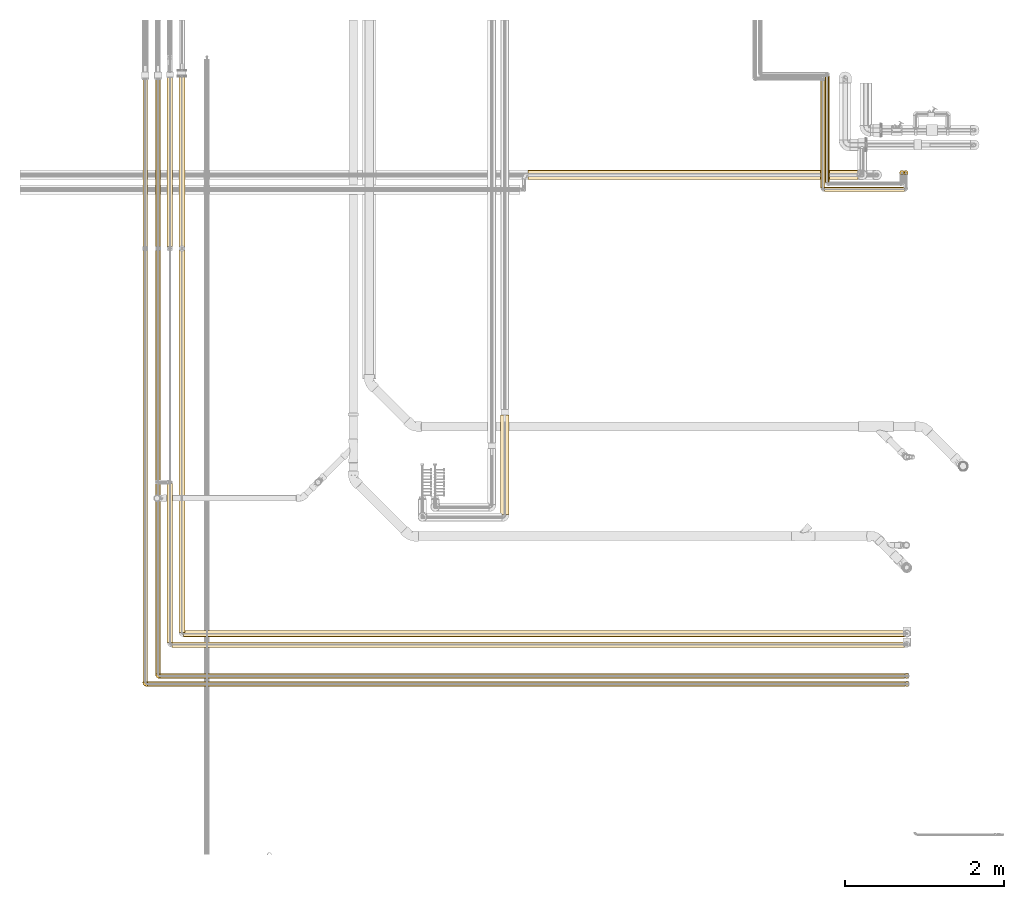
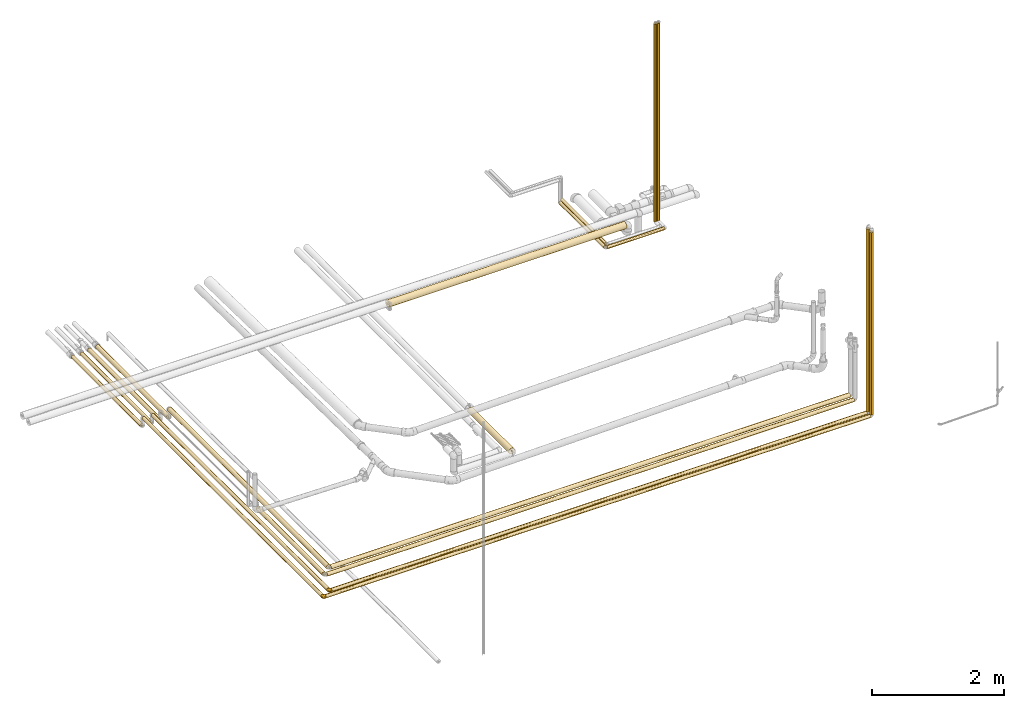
# One storey, part 1 of 83: 23 coverings.
"""IFC2X3 building model written with IfcOpenShell, lengths in millimetres."""

from ifc_helpers import new_model, entity, si_unit, converted_unit, derived_unit, direction, frame, origin_with_axes, origin_2d_with_axis, place, context, subcontext, project, spatial, hollow_circle, extrude, open_shell, surface_model, source, transform, mapped, element, save


model = new_model("IFC2X3")

# Units and contexts
model_context = context("Model", 3, precision=0.01, world=frame((0.0, 4.29681676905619e-09, 0.0)), true_north=direction((4.01073788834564e-13, 1.0)))
plan_context = context("Plan", 3, precision=0.01, world=frame((0.0, 4.29681676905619e-09, 0.0)), true_north=direction((4.01073788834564e-13, 1.0)))
body_context = subcontext(model_context, "Body", "Model", "MODEL_VIEW")
ifc_project = project(units=[converted_unit("PLANEANGLEUNIT", "DEGREE", entity("IfcPositiveLengthMeasure", 0.0174532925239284), si_unit("PLANEANGLEUNIT", "RADIAN"), dimensions=[0, 0, 0, 0, 0, 0, 0]), si_unit("AREAUNIT", "SQUARE_METRE"), si_unit("LENGTHUNIT", "METRE", prefix="MILLI"), si_unit("MASSUNIT", "GRAM", prefix="KILO"), si_unit("POWERUNIT", "WATT"), si_unit("PRESSUREUNIT", "PASCAL"), si_unit("FORCEUNIT", "NEWTON", prefix="KILO"), si_unit("ELECTRICVOLTAGEUNIT", "VOLT"), si_unit("ELECTRICCURRENTUNIT", "AMPERE"), si_unit("THERMODYNAMICTEMPERATUREUNIT", "DEGREE_CELSIUS"), si_unit("TIMEUNIT", "SECOND"), si_unit("VOLUMEUNIT", "CUBIC_METRE"), derived_unit("LINEARVELOCITYUNIT", [(si_unit("LENGTHUNIT", "METRE"), 1), (si_unit("TIMEUNIT", "SECOND"), -1)]), derived_unit("VOLUMETRICFLOWRATEUNIT", [(si_unit("VOLUMEUNIT", "CUBIC_METRE"), 1), (si_unit("TIMEUNIT", "SECOND"), -1)]), derived_unit("THERMALTRANSMITTANCEUNIT", [(si_unit("POWERUNIT", "WATT"), 1), (si_unit("THERMODYNAMICTEMPERATUREUNIT", "KELVIN"), -1), (si_unit("AREAUNIT", "SQUARE_METRE"), -1)]), derived_unit("SOUNDPRESSUREUNIT", [(si_unit("PRESSUREUNIT", "PASCAL"), 1)])], contexts=[model_context, plan_context])

# Site, building, storey
site_placement = place(None, frame((0.0, -4.29681676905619e-09, 0.0), z_axis=(0.0, 0.0, 1.0), x_axis=(1.0, 0.0, 0.0)))
site = spatial("IfcSite", under=ifc_project, at=site_placement, Name="ENGM", CompositionType="ELEMENT")
building_placement = place(site_placement, frame((0.0, 4.29681676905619e-09, 0.0), z_axis=(0.0, 0.0, 1.0), x_axis=(1.0, 0.0, 0.0)))
building = spatial("IfcBuilding", under=site, at=building_placement, Name="TI", CompositionType="ELEMENT")
storey_placement = place(building_placement, frame((0.0, 0.0, 204000.0), z_axis=(0.0, 0.0, 1.0), x_axis=(1.0, 0.0, 0.0)))
storey = spatial("IfcBuildingStorey", under=building, at=storey_placement, Name="Nivå D", CompositionType="ELEMENT", Elevation=204000.0)

# Coverings
shared_shape_1 = source(origin_with_axes(), body_context, "Body", "SweptSolid", [
    extrude(hollow_circle(Radius=52.5, WallThickness=40.0, at=origin_2d_with_axis()), frame((0.0, 0.0, 0.0), z_axis=(1.0, 0.0, 0.0), x_axis=(0.0, 1.0, 0.0)), (0.0, 0.0, 1.0), 1249.8),
])
covering_1_placement = place(storey_placement, frame((604084.1909, 693269.40884, 6040.49622), z_axis=(0.0, 0.0, 1.0), x_axis=(0.0, 1.0, 0.0)))
element("IfcCovering", 1, at=covering_1_placement, inside=storey, Name="BI11T - Rørskål m/Al.folie - varme 60-25", PredefinedType="INSULATION", context=body_context, shape_type="MappedRepresentation", body=[
    mapped(shared_shape_1, transform((0.0, 0.0, 0.0), scale=1.0)),
])
shared_shape_2 = source(origin_with_axes(), body_context, "Body", "SweptSolid", [
    extrude(hollow_circle(Radius=60.0, WallThickness=40.0, at=origin_2d_with_axis()), frame((0.0, 0.0, 0.0), z_axis=(1.0, 0.0, 0.0), x_axis=(0.0, 1.0, 0.0)), (0.0, 0.0, 1.0), 4145.8),
])
covering_2_placement = place(storey_placement, frame((608520.37351, 697531.0, 6072.06187000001), z_axis=(0.0, 0.0, 1.0), x_axis=(-1.0, 0.0, 0.0)))
element("IfcCovering", 2, at=covering_2_placement, inside=storey, Name="BI11T - Rørskål m/Al.folie - varme 60-25", PredefinedType="INSULATION", context=body_context, shape_type="MappedRepresentation", body=[
    mapped(shared_shape_2, transform((0.0, 0.0, 0.0), scale=1.0)),
])
shared_shape_3 = source(origin_with_axes(), body_context, "Body", "SweptSolid", [
    extrude(hollow_circle(Radius=31.0, WallThickness=21.0, at=origin_2d_with_axis()), frame((0.0, 0.0, 0.0), z_axis=(1.0, 0.0, 0.0), x_axis=(0.0, 1.0, 0.0)), (0.0, 0.0, 1.0), 9506.4),
])
covering_3_placement = place(storey_placement, frame((599598.7743, 691141.97914, 6220.0), z_axis=(0.0, 0.0, 1.0), x_axis=(1.0, 0.0, 0.0)))
element("IfcCovering", 3, at=covering_3_placement, inside=storey, Name="BI10T - Cellegummi 18-32 mm kalde rør", PredefinedType="INSULATION", context=body_context, shape_type="MappedRepresentation", body=[
    mapped(shared_shape_3, transform((0.0, 0.0, 0.0), scale=1.0)),
])
shared_shape_4 = source(origin_with_axes(), body_context, "Body", "SurfaceModel", [
    surface_model("IfcShellBasedSurfaceModel", [(7.65854, 26.8, 33.53665), (14.93103, 26.8, 30.99072), (21.4533, 26.8, 26.89082), (-26.583, 26.8, -21.83356), (-7.52438, 26.8, 33.567), (30.99573, 26.8, 14.92062), (26.899, 26.8, 21.44304), (0.0, 26.8, 34.4), (-14.69425, 26.8, 31.10368), (-26.583, 26.8, 21.83356), (-21.15177, 26.8, 27.12863), (33.53852, 26.8, 7.65035), (34.4, 26.8, 0.0), (26.89082, 26.8, -21.4533), (33.53665, 26.8, -7.65854), (30.99072, 26.8, -14.93103), (21.44304, 26.8, -26.899), (14.92062, 26.8, -30.99573), (-14.70935, 26.8, -31.09655), (-21.16359, 26.8, -27.11941), (-7.53901, 26.8, -33.56372), (0.0, 26.8, -34.4), (7.65035, 26.8, -33.53852), (-26.8, 26.583, -21.83356), (-26.8, 21.15599, -27.12534), (-26.8, 14.7018, -31.10012), (-26.8, -8.90338, 33.22785), (-26.8, 26.583, 21.83356), (-26.8, 7.53379, -33.56489), (-26.8, 21.15599, 27.12534), (-26.8, 14.7018, 31.10012), (-26.8, 7.53379, 33.56489), (-26.8, 0.0, 34.4), (-26.8, -29.79127, 17.2), (-26.8, 0.0, -34.4), (-26.8, -8.90338, -33.22785), (-26.8, -17.2, -29.79127), (-26.8, -24.32447, -24.32447), (-26.8, -29.79127, -17.2), (-26.8, -34.4, 0.0), (-26.8, -33.22785, -8.90338), (-26.8, -17.2, 29.79127), (-26.8, -24.32447, 24.32447), (-26.8, -33.22785, 8.90338), (-26.64656, 26.64656, 21.83356), (-26.64656, 26.64656, -21.83356), (-3.59052, 13.4, -34.4), (-14.33755, 14.33755, -33.15375), (-20.98278, 20.24865, -29.29104), (-13.4, 3.59052, -34.4), (23.43181, -5.85668, -9.31772), (30.59211, 12.00691, -11.36629), (29.74143, 3.37977, 0.0), (-17.35379, -5.60847, -33.68915), (-10.72157, -3.05952, -33.65653), (-2.19496, -13.46149, -27.70964), (-5.90325, -23.09189, -20.94139), (-14.44362, -19.31464, -27.29136), (-11.50632, -10.12221, -31.78146), (-19.86027, -12.55716, -31.78146), (14.5039, 8.69712, -29.13049), (17.47419, 18.2255, -29.13049), (22.70218, 14.0418, -24.32911), (-8.49526, 8.49526, -34.4), (-1.73573, 4.43438, -33.72277), (-1.40625, 21.55179, -34.4), (21.13117, -4.93531, -15.5496), (-8.95552, -31.11498, -6.38768), (-11.56328, -29.76527, -13.16431), (31.96725, 14.56973, 0.0), (-17.29059, -26.4489, -20.94139), (13.00945, -12.79913, -17.94172), (17.64372, -3.70839, -21.17899), (4.67119, 7.67803, -32.90681), (10.14945, 17.27713, -32.47124), (28.1038, 16.16713, -18.30729), (5.75988, -4.42453, -29.1208), (-1.4374, -2.65193, -32.21392), (20.41295, 4.88172, -23.35949), (24.42026, 4.35073, -18.30729), (16.40522, -14.15163, -10.5905), (-1.3824, -25.73418, -13.68663), (1.8264, -26.29935, -7.71275), (8.10398, -20.63529, -12.38525), (11.69208, -20.10273, -5.98463), (16.47493, -16.47493, 0.0), (23.10818, -6.54758, 0.0), (-14.56973, -31.96725, 0.0), (4.03594, -17.21397, -21.39036), (9.62885, -9.0633, -24.32911), (-21.55179, 1.40625, -34.4), (13.92099, -0.05311, -26.46374), (9.4576, 2.58417, -30.01827), (-3.37977, -29.74143, 0.0), (6.54758, -23.10818, 0.0), (-16.40302, -11.7882, 31.78146), (-8.96499, -31.08424, 6.55564), (10.63139, -19.08757, 11.50781), (23.44486, -5.83859, 9.31385), (22.71205, 14.04293, 24.31983), (28.11122, 16.17091, 18.29685), (-8.34799, -17.2314, 27.29136), (-13.16926, -25.54575, 20.94139), (1.60724, -19.88713, 20.19204), (14.51664, 8.70018, 29.12392), (17.4853, 18.22796, 29.12392), (10.15899, 17.27639, 32.46794), (17.02293, -8.95279, 17.25897), (-13.98179, -4.14591, 33.74209), (-13.4, 3.59052, 34.4), (-20.1, 1.79526, 34.4), (-1.40625, 21.55179, 34.4), (-16.33213, -31.39885, 11.74535), (-18.40196, -20.19695, 27.29136), (2.37805, -25.95313, 7.88237), (-5.56785, -27.79838, 13.16431), (30.59671, 12.01158, 11.35688), (1.61546, -9.41417, 28.52205), (-9.49504, -8.67307, 31.98214), (24.43036, 4.35742, 18.29685), (-8.61019, -0.7535, 33.83371), (-2.54483, 2.9265, 33.63096), (-3.59052, 13.4, 34.4), (-8.49526, 8.49526, 34.4), (18.33244, 2.77456, 24.3201), (4.67405, 7.66653, 32.90424), (-20.5196, -5.89205, 33.78227), (9.64914, -9.05591, 24.31984), (7.49925, -1.10027, 29.66678), (2.2383, -14.80321, 24.70771), (-3.35568, -4.38407, 32.15869), (-14.33836, 14.33836, 33.15344), (-20.24021, 20.9835, 29.29463)], [open_shell([[[0, 1, 2]], [[2, 3, 4]], [[5, 2, 6]], [[5, 3, 2]], [[0, 2, 7]], [[2, 4, 7]], [[8, 9, 10]], [[9, 8, 4]], [[4, 3, 9]], [[5, 11, 12]], [[13, 12, 14]], [[13, 14, 15]], [[3, 13, 16]], [[13, 3, 12]], [[3, 16, 17]], [[3, 18, 19]], [[18, 3, 20]], [[21, 20, 3]], [[21, 3, 22]], [[3, 17, 22]], [[12, 3, 5]], [[23, 24, 25]], [[26, 27, 25]], [[23, 25, 27]], [[25, 28, 26]], [[29, 27, 30]], [[27, 31, 30]], [[31, 27, 32]], [[32, 27, 26]], [[33, 28, 34]], [[35, 36, 37]], [[38, 33, 34]], [[38, 35, 37]], [[39, 38, 40]], [[41, 33, 42]], [[33, 41, 26]], [[33, 39, 43]], [[26, 28, 33]], [[38, 39, 33]], [[34, 35, 38]], [[23, 27, 44]], [[45, 23, 44]], [[9, 3, 44]], [[45, 44, 3]], [[46, 47, 20]], [[25, 48, 47]], [[34, 28, 49]], [[49, 28, 47]], [[25, 24, 48]], [[24, 23, 45]], [[45, 3, 19]], [[47, 48, 18]], [[47, 46, 49]], [[18, 20, 47]], [[20, 21, 46]], [[18, 48, 19]], [[28, 25, 47]], [[45, 19, 48]], [[45, 48, 24]], [[50, 51, 52]], [[53, 49, 54]], [[55, 56, 57]], [[58, 59, 53]], [[60, 61, 62]], [[63, 64, 54]], [[65, 21, 22]], [[51, 50, 66]], [[67, 40, 68]], [[51, 14, 69]], [[70, 38, 37]], [[36, 59, 57]], [[36, 57, 37]], [[38, 70, 68]], [[59, 36, 35]], [[71, 72, 66]], [[73, 46, 74]], [[65, 22, 74]], [[13, 15, 75]], [[62, 16, 13]], [[74, 46, 65]], [[74, 22, 17]], [[61, 74, 17]], [[76, 55, 77]], [[74, 60, 73]], [[78, 79, 72]], [[78, 62, 79]], [[71, 66, 80]], [[67, 81, 82]], [[51, 15, 14]], [[52, 51, 69]], [[79, 75, 51]], [[38, 68, 40]], [[75, 62, 13]], [[83, 84, 82]], [[16, 61, 17]], [[81, 83, 82]], [[85, 50, 86]], [[40, 67, 87]], [[71, 88, 89]], [[54, 64, 77]], [[55, 57, 58]], [[70, 57, 56]], [[35, 34, 90]], [[60, 91, 92]], [[73, 77, 64]], [[14, 12, 69]], [[51, 75, 15]], [[62, 75, 79]], [[62, 61, 16]], [[74, 61, 60]], [[77, 55, 58]], [[55, 89, 88]], [[54, 58, 53]], [[91, 76, 92]], [[87, 67, 93]], [[87, 39, 40]], [[84, 85, 94]], [[94, 93, 82]], [[67, 82, 93]], [[80, 84, 83]], [[94, 82, 84]], [[81, 67, 68]], [[68, 56, 81]], [[88, 81, 56]], [[71, 80, 83]], [[80, 50, 85]], [[83, 81, 88]], [[72, 71, 89]], [[83, 88, 71]], [[55, 88, 56]], [[91, 72, 89]], [[66, 72, 79]], [[76, 91, 89]], [[78, 60, 62]], [[55, 76, 89]], [[92, 77, 73]], [[51, 66, 79]], [[66, 50, 80]], [[72, 91, 78]], [[60, 78, 91]], [[77, 92, 76]], [[73, 64, 46]], [[73, 60, 92]], [[57, 70, 37]], [[68, 70, 56]], [[53, 35, 90]], [[57, 59, 58]], [[35, 53, 59]], [[49, 53, 90]], [[63, 54, 49]], [[77, 58, 54]], [[50, 52, 86]], [[85, 84, 80]], [[46, 64, 63]], [[41, 95, 26]], [[93, 96, 87]], [[97, 85, 98]], [[96, 43, 87]], [[99, 100, 6]], [[101, 102, 103]], [[104, 105, 106]], [[107, 103, 97]], [[108, 109, 110]], [[0, 111, 106]], [[112, 102, 33]], [[0, 7, 111]], [[42, 113, 41]], [[41, 113, 95]], [[1, 0, 106]], [[114, 97, 115]], [[98, 52, 116]], [[101, 117, 118]], [[119, 100, 99]], [[2, 99, 6]], [[43, 96, 112]], [[116, 5, 100]], [[116, 69, 11]], [[2, 1, 105]], [[108, 120, 109]], [[121, 122, 123]], [[124, 119, 99]], [[104, 106, 125]], [[106, 122, 125]], [[5, 116, 11]], [[33, 102, 42]], [[105, 99, 2]], [[98, 116, 119]], [[124, 99, 104]], [[98, 107, 97]], [[5, 6, 100]], [[98, 85, 86]], [[122, 106, 111]], [[95, 108, 126]], [[127, 128, 117]], [[128, 104, 125]], [[103, 102, 115]], [[113, 102, 101]], [[123, 120, 121]], [[128, 127, 124]], [[97, 103, 115]], [[129, 127, 117]], [[114, 115, 96]], [[98, 119, 107]], [[69, 116, 52]], [[69, 12, 11]], [[26, 126, 32]], [[116, 100, 119]], [[106, 105, 1]], [[99, 105, 104]], [[121, 128, 125]], [[120, 123, 109]], [[117, 128, 130]], [[43, 39, 87]], [[94, 114, 93]], [[96, 115, 112]], [[97, 94, 85]], [[93, 114, 96]], [[94, 97, 114]], [[102, 112, 115]], [[33, 43, 112]], [[126, 108, 110]], [[118, 108, 95]], [[124, 107, 119]], [[103, 107, 127]], [[32, 126, 110]], [[95, 126, 26]], [[128, 124, 104]], [[107, 124, 127]], [[118, 117, 130]], [[129, 101, 103]], [[102, 113, 42]], [[95, 113, 101]], [[101, 118, 95]], [[120, 118, 130]], [[118, 120, 108]], [[120, 130, 121]], [[128, 121, 130]], [[122, 121, 125]], [[101, 129, 117]], [[103, 127, 129]], [[86, 52, 98]], [[31, 32, 109]], [[31, 131, 30]], [[30, 131, 132]], [[27, 29, 44]], [[122, 131, 109]], [[122, 7, 4]], [[31, 109, 131]], [[132, 44, 29]], [[132, 131, 8]], [[10, 9, 44]], [[44, 132, 10]], [[30, 132, 29]], [[4, 8, 131]], [[122, 4, 131]], [[8, 10, 132]]])]),
])
for number, where, z_axis, x_axis in (
    (4, (599571.9743, 691141.97914, 6220.0), (0.0, 0.0, 1.0), (0.0, -1.0, 0.0)),
    (5, (599732.2743, 691241.97914, 6220.00010999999), (0.0, 0.0, 1.0), (0.0, -1.0, 0.0)),
):
    element("IfcCovering", number, at=place(storey_placement, frame(where, z_axis=z_axis, x_axis=x_axis)), inside=storey, Name="BI10T - Cellegummi 18-32 mm kalde rør", PredefinedType="INSULATION", context=body_context, shape_type="MappedRepresentation", body=[
        mapped(shared_shape_4, transform((0.0, 0.0, 0.0), scale=1.0)),
    ])
shared_shape_5 = source(origin_with_axes(), body_context, "Body", "SweptSolid", [
    extrude(hollow_circle(Radius=31.0, WallThickness=21.0, at=origin_2d_with_axis()), frame((0.0, 0.0, 0.0), z_axis=(1.0, 0.0, 0.0), x_axis=(0.0, 1.0, 0.0)), (0.0, 0.0, 1.0), 3366.4),
])
for number, where, z_axis, x_axis in (
    (6, (609131.9743, 691141.97914, 6246.79999999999), (0.0, 1.0, 0.0), (0.0, 0.0, 1.0)),
    (7, (609129.7743, 691241.97914, 6246.80011000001), (0.0, -1.0, 0.0), (0.0, 0.0, 1.0)),
):
    element("IfcCovering", number, at=place(storey_placement, frame(where, z_axis=z_axis, x_axis=x_axis)), inside=storey, Name="BI10T - Cellegummi 18-32 mm kalde rør", PredefinedType="INSULATION", context=body_context, shape_type="MappedRepresentation", body=[
        mapped(shared_shape_5, transform((0.0, 0.0, 0.0), scale=1.0)),
    ])
shared_shape_6 = source(origin_with_axes(), body_context, "Body", "SweptSolid", [
    extrude(hollow_circle(Radius=31.0, WallThickness=21.0, at=origin_2d_with_axis()), frame((0.0, 0.0, 0.0), z_axis=(1.0, 0.0, 0.0), x_axis=(0.0, 1.0, 0.0)), (0.0, 0.0, 1.0), 9343.9),
])
covering_4_placement = place(storey_placement, frame((599759.0743, 691241.97914, 6220.00010999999), z_axis=(0.0, 0.0, 1.0), x_axis=(1.0, 0.0, 0.0)))
element("IfcCovering", 8, at=covering_4_placement, inside=storey, Name="BI10T - Cellegummi 18-32 mm kalde rør", PredefinedType="INSULATION", context=body_context, shape_type="MappedRepresentation", body=[
    mapped(shared_shape_6, transform((0.0, 0.0, 0.0), scale=1.0)),
])
shared_shape_7 = source(origin_with_axes(), body_context, "Body", "SweptSolid", [
    extrude(hollow_circle(Radius=39.0, WallThickness=30.0, at=origin_2d_with_axis()), frame((0.0, 0.0, 0.0), z_axis=(1.0, 0.0, 0.0), x_axis=(0.0, 1.0, 0.0)), (0.0, 0.0, 1.0), 9064.0),
])
covering_5_placement = place(storey_placement, frame((600049.9743, 691772.72914, 6220.0), z_axis=(0.0, 0.0, 1.0), x_axis=(1.0, 0.0, 0.0)))
element("IfcCovering", 9, at=covering_5_placement, inside=storey, Name="BI16T - Rørskål m/Al.folie - VV 40mm", PredefinedType="INSULATION", context=body_context, shape_type="MappedRepresentation", body=[
    mapped(shared_shape_7, transform((0.0, 0.0, 0.0), scale=1.0)),
])
shared_shape_8 = source(origin_with_axes(), body_context, "Body", "SweptSolid", [
    extrude(hollow_circle(Radius=35.0, WallThickness=21.0, at=origin_2d_with_axis()), frame((0.0, 0.0, 0.0), z_axis=(1.0, 0.0, 0.0), x_axis=(0.0, 1.0, 0.0)), (0.0, 0.0, 1.0), 9194.0),
])
covering_6_placement = place(storey_placement, frame((599909.50429, 691635.97914, 6220.0), z_axis=(0.0, 0.0, 1.0), x_axis=(1.0, 0.0, 0.0)))
element("IfcCovering", 10, at=covering_6_placement, inside=storey, Name="BI15T - Cellegummi KV 15mm", PredefinedType="INSULATION", context=body_context, shape_type="MappedRepresentation", body=[
    mapped(shared_shape_8, transform((0.0, 0.0, 0.0), scale=1.0)),
])
shared_shape_9 = source(origin_with_axes(), body_context, "Body", "SweptSolid", [
    extrude(hollow_circle(Radius=31.0, WallThickness=21.0, at=origin_2d_with_axis()), frame((0.0, 0.0, 0.0), z_axis=(1.0, 0.0, 0.0), x_axis=(0.0, 1.0, 0.0)), (0.0, 0.0, 1.0), 2091.8),
])
for number, where, z_axis, x_axis in (
    (11, (599571.9743, 698726.37914, 6052.20000000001), (0.0, 0.0, 1.0), (0.0, -1.0, 0.0)),
    (12, (599732.2743, 698726.37914, 6052.16784000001), (-6.999999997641e-06, -2.4999999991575e-05, 0.999999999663), (2.7999999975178e-11, -0.9999999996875, -2.49999999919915e-05)),
):
    element("IfcCovering", number, at=place(storey_placement, frame(where, z_axis=z_axis, x_axis=x_axis)), inside=storey, Name="BI10T - Cellegummi 18-32 mm kalde rør", PredefinedType="INSULATION", context=body_context, shape_type="MappedRepresentation", body=[
        mapped(shared_shape_9, transform((0.0, 0.0, 0.0), scale=1.0)),
    ])
shared_shape_10 = source(origin_with_axes(), body_context, "Body", "SweptSolid", [
    extrude(hollow_circle(Radius=35.0, WallThickness=21.0, at=origin_2d_with_axis()), frame((0.0, 0.0, 0.0), z_axis=(1.0, 0.0, 0.0), x_axis=(0.0, 1.0, 0.0)), (0.0, 0.0, 1.0), 2117.3),
])
covering_7_placement = place(storey_placement, frame((599881.50429, 698752.97914, 6052.17455), z_axis=(0.0, 0.0, 1.0), x_axis=(0.0, -1.0, 0.0)))
element("IfcCovering", 13, at=covering_7_placement, inside=storey, Name="BI15T - Cellegummi KV 15mm", PredefinedType="INSULATION", context=body_context, shape_type="MappedRepresentation", body=[
    mapped(shared_shape_10, transform((0.0, 0.0, 0.0), scale=1.0)),
])
shared_shape_11 = source(origin_with_axes(), body_context, "Body", "SweptSolid", [
    extrude(hollow_circle(Radius=39.0, WallThickness=30.0, at=origin_2d_with_axis()), frame((0.0, 0.0, 0.0), z_axis=(1.0, 0.0, 0.0), x_axis=(0.0, 1.0, 0.0)), (0.0, 0.0, 1.0), 2140.0),
])
covering_8_placement = place(storey_placement, frame((600031.9743, 698765.72914, 6052.20000000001), z_axis=(0.0, 0.0, 1.0), x_axis=(0.0, -1.0, 0.0)))
element("IfcCovering", 14, at=covering_8_placement, inside=storey, Name="BI16T - Rørskål m/Al.folie - VV 40mm", PredefinedType="INSULATION", context=body_context, shape_type="MappedRepresentation", body=[
    mapped(shared_shape_11, transform((0.0, 0.0, 0.0), scale=1.0)),
])
shared_shape_12 = source(origin_with_axes(), body_context, "Body", "SweptSolid", [
    extrude(hollow_circle(Radius=39.0, WallThickness=30.0, at=origin_2d_with_axis()), frame((0.0, 0.0, 0.0), z_axis=(1.0, 0.0, 0.0), x_axis=(0.0, 1.0, 0.0)), (0.0, 0.0, 1.0), 4799.0),
])
covering_9_placement = place(storey_placement, frame((600031.9743, 691790.72914, 6220.0), z_axis=(0.0, 0.0, 1.0), x_axis=(0.0, 1.0, 0.0)))
element("IfcCovering", 15, at=covering_9_placement, inside=storey, Name="BI16T - Rørskål m/Al.folie - VV 40mm", PredefinedType="INSULATION", context=body_context, shape_type="MappedRepresentation", body=[
    mapped(shared_shape_12, transform((0.0, 0.0, 0.0), scale=1.0)),
])
shared_shape_13 = source(origin_with_axes(), body_context, "Body", "SweptSolid", [
    extrude(hollow_circle(Radius=31.0, WallThickness=21.0, at=origin_2d_with_axis()), frame((0.0, 0.0, 0.0), z_axis=(1.0, 0.0, 0.0), x_axis=(0.0, 1.0, 0.0)), (0.0, 0.0, 1.0), 5312.1),
])
covering_10_placement = place(storey_placement, frame((599732.2743, 691268.77914, 6220.0), z_axis=(0.0, 0.0, 1.0), x_axis=(0.0, 1.0, 0.0)))
element("IfcCovering", 16, at=covering_10_placement, inside=storey, Name="BI10T - Cellegummi 18-32 mm kalde rør", PredefinedType="INSULATION", context=body_context, shape_type="MappedRepresentation", body=[
    mapped(shared_shape_13, transform((0.0, 0.0, 0.0), scale=1.0)),
])
shared_shape_14 = source(origin_with_axes(), body_context, "Body", "SweptSolid", [
    extrude(hollow_circle(Radius=31.0, WallThickness=21.0, at=origin_2d_with_axis()), frame((0.0, 0.0, 0.0), z_axis=(1.0, 0.0, 0.0), x_axis=(0.0, 1.0, 0.0)), (0.0, 0.0, 1.0), 5412.2),
])
covering_11_placement = place(storey_placement, frame((599571.9743, 691168.77914, 6220.0), z_axis=(0.0, 0.0, 1.0), x_axis=(0.0, 1.0, 0.0)))
element("IfcCovering", 17, at=covering_11_placement, inside=storey, Name="BI10T - Cellegummi 18-32 mm kalde rør", PredefinedType="INSULATION", context=body_context, shape_type="MappedRepresentation", body=[
    mapped(shared_shape_14, transform((0.0, 0.0, 0.0), scale=1.0)),
])
shared_shape_15 = source(origin_with_axes(), body_context, "Body", "SweptSolid", [
    extrude(hollow_circle(Radius=35.0, WallThickness=21.0, at=origin_2d_with_axis()), frame((0.0, 0.0, 0.0), z_axis=(1.0, 0.0, 0.0), x_axis=(0.0, 1.0, 0.0)), (0.0, 0.0, 1.0), 1996.7),
])
covering_12_placement = place(storey_placement, frame((599881.50429, 691663.97914, 6220.0), z_axis=(0.0, 0.0, 1.0), x_axis=(0.0, 1.0, 0.0)))
element("IfcCovering", 18, at=covering_12_placement, inside=storey, Name="BI15T - Cellegummi KV 15mm", PredefinedType="INSULATION", context=body_context, shape_type="MappedRepresentation", body=[
    mapped(shared_shape_15, transform((0.0, 0.0, 0.0), scale=1.0)),
])
shared_shape_16 = source(origin_with_axes(), body_context, "Body", "SweptSolid", [
    extrude(hollow_circle(Radius=29.0, WallThickness=20.0, at=origin_2d_with_axis()), frame((0.0, 0.0, 0.0), z_axis=(1.0, 0.0, 0.0), x_axis=(0.0, 1.0, 0.0)), (0.0, 0.0, 1.0), 1351.3),
])
covering_13_placement = place(storey_placement, frame((608077.81817, 697367.51267, 5920.0), z_axis=(0.0, 0.0, 1.0), x_axis=(0.0, 1.0, 0.0)))
element("IfcCovering", 19, at=covering_13_placement, inside=storey, Name="BI10T - Cellegummi 18-32 mm kalde rør", PredefinedType="INSULATION", context=body_context, shape_type="MappedRepresentation", body=[
    mapped(shared_shape_16, transform((0.0, 0.0, 0.0), scale=1.0)),
])
shared_shape_17 = source(origin_with_axes(), body_context, "Body", "SweptSolid", [
    extrude(hollow_circle(Radius=29.0, WallThickness=20.0, at=origin_2d_with_axis()), frame((0.0, 0.0, 0.0), z_axis=(1.0, 0.0, 0.0), x_axis=(0.0, 1.0, 0.0)), (0.0, 0.0, 1.0), 1004.0),
])
covering_14_placement = place(storey_placement, frame((608095.81817, 697349.51267, 5920.0), z_axis=(0.0, 0.0, 1.0), x_axis=(1.0, 0.0, 0.0)))
element("IfcCovering", 20, at=covering_14_placement, inside=storey, Name="BI10T - Cellegummi 18-32 mm kalde rør", PredefinedType="INSULATION", context=body_context, shape_type="MappedRepresentation", body=[
    mapped(shared_shape_17, transform((0.0, 0.0, 0.0), scale=1.0)),
])
shared_shape_18 = source(origin_with_axes(), body_context, "Body", "SweptSolid", [
    extrude(hollow_circle(Radius=29.0, WallThickness=20.0, at=origin_2d_with_axis()), frame((0.0, 0.0, 0.0), z_axis=(1.0, 0.0, 0.0), x_axis=(0.0, 1.0, 0.0)), (0.0, 0.0, 1.0), 3644.0),
])
for number, where, z_axis, x_axis in (
    (21, (609117.81817, 697559.51267, 5938.0), (0.0, 1.0, 0.0), (0.0, 0.0, 1.0)),
    (22, (609069.65402, 697559.51267, 5938.0), (0.0, 1.0, 0.0), (0.0, 0.0, 1.0)),
):
    element("IfcCovering", number, at=place(storey_placement, frame(where, z_axis=z_axis, x_axis=x_axis)), inside=storey, Name="BI10T - Cellegummi 18-32 mm kalde rør", PredefinedType="INSULATION", context=body_context, shape_type="MappedRepresentation", body=[
        mapped(shared_shape_18, transform((0.0, 0.0, 0.0), scale=1.0)),
    ])
shared_shape_19 = source(origin_with_axes(), body_context, "Body", "SweptSolid", [
    extrude(hollow_circle(Radius=29.0, WallThickness=20.0, at=origin_2d_with_axis()), frame((0.0, 0.0, 0.0), z_axis=(1.0, 0.0, 0.0), x_axis=(0.0, 1.0, 0.0)), (0.0, 0.0, 1.0), 1336.3),
])
covering_15_placement = place(storey_placement, frame((608134.38671, 697437.51267, 5920.0), z_axis=(0.0, 0.0, 1.0), x_axis=(0.0, 1.0, 0.0)))
element("IfcCovering", 23, at=covering_15_placement, inside=storey, Name="BI10T - Cellegummi 18-32 mm kalde rør", PredefinedType="INSULATION", context=body_context, shape_type="MappedRepresentation", body=[
    mapped(shared_shape_19, transform((0.0, 0.0, 0.0), scale=1.0)),
])

save(model, "model.ifc")
